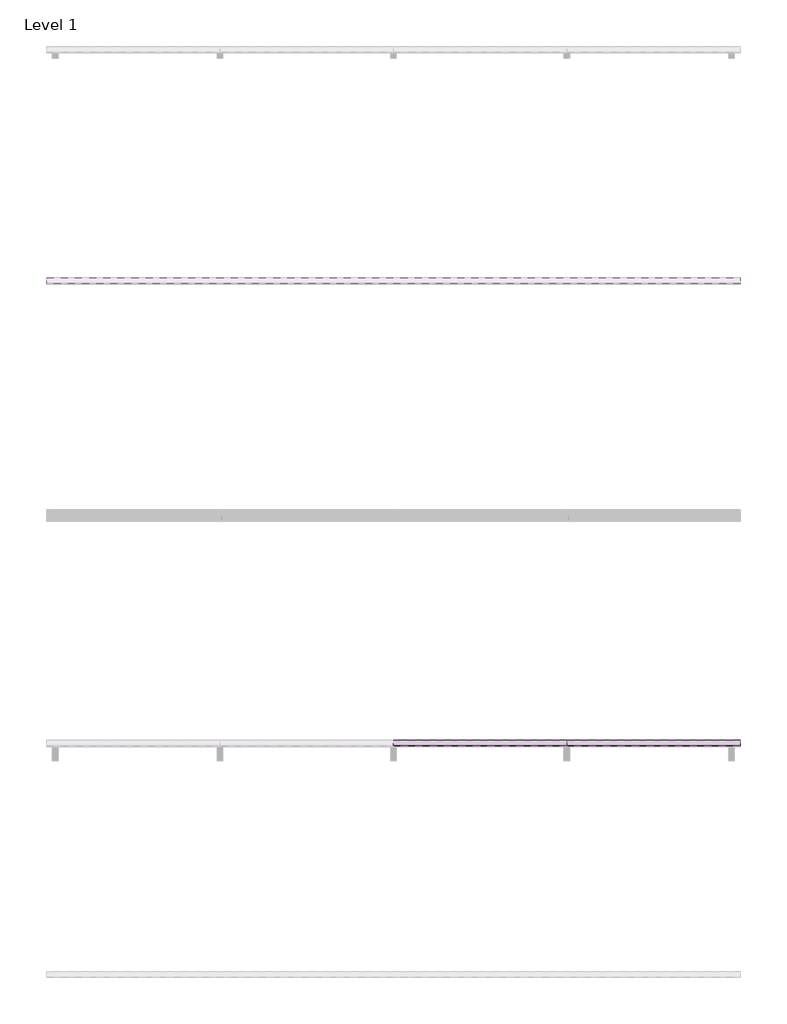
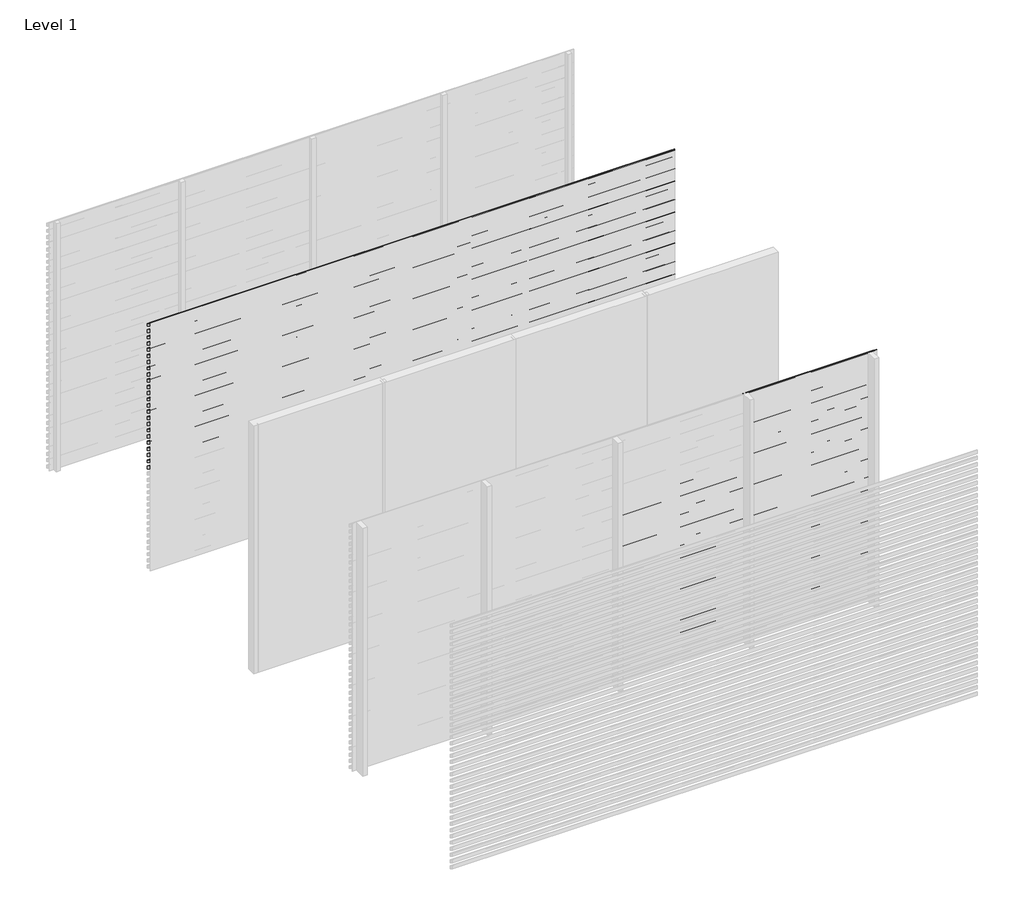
# One storey, part 3 of 9: 93 proxies.
"""IFC4 building model written with IfcOpenShell, lengths in millimetres."""

import ifcopenshell
import ifcopenshell.guid

model = None  # the IFC model being written
_history = None  # IfcOwnerHistory: only IFC2X3 demands one
_inside = {}  # id of a spatial element -> (the spatial element, [elements in it])
_under = {}  # id of a project, library or spatial element -> (it, [spatial elements below it])
_declared = {}  # id of a project -> (the project, [libraries it declares])
_typed = {}  # id of a type object -> (the type object, [elements of that type])
_made_of = {}  # id of a material, layer set ... -> (it, [elements and type objects made of it])


def new_model(schema):
    """Start an empty IFC model of exactly this schema.

    Asked for "IFC4X3", IfcOpenShell would pick the latest addendum, in which some entities
    have other attributes; the version numbers below select the first issue.
    IFC2X3 requires an IfcOwnerHistory on every rooted entity: one is made here for all.
    """
    global model, _history
    if schema == "IFC4X3":
        model = ifcopenshell.file(schema_version=(4, 3, 0, 0))
    else:
        model = ifcopenshell.file(schema=schema)
    _inside.clear()
    _under.clear()
    _declared.clear()
    _typed.clear()
    _made_of.clear()
    _history = None
    if model.schema == "IFC2X3":
        org = make("IfcOrganization", Name="unknown")
        user = make(
            "IfcPersonAndOrganization",
            ThePerson=make("IfcPerson", FamilyName="unknown"),
            TheOrganization=org,
        )
        app = make(
            "IfcApplication",
            ApplicationDeveloper=org,
            Version="unknown",
            ApplicationFullName="unknown",
            ApplicationIdentifier="unknown",
        )
        _history = make(
            "IfcOwnerHistory",
            OwningUser=user,
            OwningApplication=app,
            ChangeAction="ADDED",
            CreationDate=0,
        )
    return model


def make(cls, **values):
    """One entity of the class cls with the attributes given. An attribute that is None is left unset."""
    return model.create_entity(
        cls, **{name: value for name, value in values.items() if value is not None}
    )


def rooted(cls, **values):
    """An entity with a GlobalId (a new one), such as an element, a storey or a relation."""
    return make(cls, GlobalId=ifcopenshell.guid.new(), OwnerHistory=_history, **values)


def si_unit(unit_type, name, prefix=None):
    """IfcSIUnit, for example si_unit("LENGTHUNIT", "METRE", prefix="MILLI")."""
    return make("IfcSIUnit", UnitType=unit_type, Prefix=prefix, Name=name)


def assignment(units):
    """IfcUnitAssignment: the units of a project."""
    return None if units is None else make("IfcUnitAssignment", Units=units)


def point(xyz):
    """IfcCartesianPoint."""
    return None if xyz is None else make("IfcCartesianPoint", Coordinates=xyz)


def direction(xyz):
    """IfcDirection."""
    return None if xyz is None else make("IfcDirection", DirectionRatios=xyz)


def frame(location, z_axis=None, x_axis=None):
    """IfcAxis2Placement3D, a coordinate frame: its origin and axes. An axis left out is left unset."""
    return make(
        "IfcAxis2Placement3D",
        Location=point(location),
        Axis=direction(z_axis),
        RefDirection=direction(x_axis),
    )


def origin():
    """The frame at (0, 0, 0) with its axes left unset."""
    return frame((0.0, 0.0, 0.0))


def place(relative_to, where):
    """IfcLocalPlacement: puts the frame where relative to a parent placement (None: the world)."""
    return make(
        "IfcLocalPlacement", PlacementRelTo=relative_to, RelativePlacement=where
    )


def context(
    kind, dimensions, precision=None, world=None, true_north=None, identifier=None
):
    """IfcGeometricRepresentationContext, for example the 3D "Model" context."""
    return make(
        "IfcGeometricRepresentationContext",
        ContextIdentifier=identifier,
        ContextType=kind,
        CoordinateSpaceDimension=dimensions,
        Precision=precision,
        WorldCoordinateSystem=world,
        TrueNorth=true_north,
    )


def project(units=None, contexts=None):
    """IfcProject with its units and contexts."""
    return rooted(
        "IfcProject",
        Name="project",
        RepresentationContexts=contexts,
        UnitsInContext=assignment(units),
    )


def spatial(cls, under=None, at=None, **own):
    """A site, building, storey or space (cls), placed at a placement, below another one or the project."""
    s = rooted(cls, ObjectPlacement=at, **own)
    if under is not None:
        _under.setdefault(under.id(), (under, []))[1].append(s)
    return s


def polyline(points):
    """IfcPolyline through the points."""
    return make("IfcPolyline", Points=[point(p) for p in points])


def outline(outer, holes=None, kind="AREA"):
    """IfcArbitraryClosedProfileDef: a profile drawn as a closed curve; with holes, ...WithVoids."""
    if holes is None:
        return make("IfcArbitraryClosedProfileDef", ProfileType=kind, OuterCurve=outer)
    return make(
        "IfcArbitraryProfileDefWithVoids",
        ProfileType=kind,
        OuterCurve=outer,
        InnerCurves=holes,
    )


def extrude(swept, where, along, depth):
    """IfcExtrudedAreaSolid: the profile swept, set in the frame where, extruded along a direction by depth."""
    return make(
        "IfcExtrudedAreaSolid",
        SweptArea=swept,
        Position=where,
        ExtrudedDirection=direction(along),
        Depth=depth,
    )


def shape(context_of_items, identifier, shape_type, items):
    """IfcShapeRepresentation: the items that make up one representation, for example the "Body"."""
    return make(
        "IfcShapeRepresentation",
        ContextOfItems=context_of_items,
        RepresentationIdentifier=identifier,
        RepresentationType=shape_type,
        Items=items,
    )


def made_of(thing, what):
    """Note that an element or type object is made of a material, layer set ...; save() writes the relation."""
    if what is not None:
        _made_of.setdefault(what.id(), (what, []))[1].append(thing)
    return thing


def element(
    cls,
    number,
    at=None,
    inside=None,
    cuts=None,
    type_object=None,
    material=None,
    context=None,
    identifier="Body",
    shape_type=None,
    held_by="IfcProductDefinitionShape",
    body=None,
    shapes=None,
    **own,
):
    """One element of the class cls, such as IfcWall. Its Tag is "e" and its number.

    at: its placement. inside: the storey or other place that contains it. cuts: it is an
    opening in that element (IfcRelVoidsElement). A single representation is given by context,
    identifier, shape_type and body (its items); several are given by shapes. held_by: the class
    of the entity that holds the representations. save() writes the other relations.
    """
    e = rooted(cls, Tag="e%d" % number, ObjectPlacement=at, **own)
    if body is not None:
        shapes = [shape(context, identifier, shape_type, body)]
    if shapes is not None:
        e.Representation = make(held_by, Representations=shapes)
    if inside is not None:
        _inside.setdefault(inside.id(), (inside, []))[1].append(e)
    if cuts is not None:
        rooted(
            "IfcRelVoidsElement", RelatingBuildingElement=cuts, RelatedOpeningElement=e
        )
    if type_object is not None:
        _typed.setdefault(type_object.id(), (type_object, []))[1].append(e)
    return made_of(e, material)


def aggregate(whole, parts):
    """IfcRelAggregates: a whole, such as a stair, and the parts it consists of."""
    return rooted("IfcRelAggregates", RelatingObject=whole, RelatedObjects=parts)


def save(model, path):
    """Write the relations noted so far, then the file.

    IfcRelAggregates (storeys below a building ...), IfcRelContainedInSpatialStructure (elements
    in a storey), IfcRelDefinesByType, IfcRelAssociatesMaterial and IfcRelDeclares: one each for
    every whole, place, type object, material and project.
    """
    for whole, parts in _under.values():
        aggregate(whole, parts)
    for where, things in _inside.values():
        rooted(
            "IfcRelContainedInSpatialStructure",
            RelatedElements=things,
            RelatingStructure=where,
        )
    for kind, things in _typed.values():
        rooted("IfcRelDefinesByType", RelatedObjects=things, RelatingType=kind)
    for what, things in _made_of.values():
        rooted("IfcRelAssociatesMaterial", RelatedObjects=things, RelatingMaterial=what)
    for by, libraries in _declared.values():
        rooted("IfcRelDeclares", RelatingContext=by, RelatedDefinitions=libraries)
    model.write(path)


model = new_model("IFC4")

# Units and contexts
model_context = context("Model", 3, world=origin())
ifc_project = project(units=[si_unit("LENGTHUNIT", "METRE", prefix="MILLI")], contexts=[model_context])

# Site, building, storey
site = spatial("IfcSite", under=ifc_project)
building = spatial("IfcBuilding", under=site)
storey = spatial("IfcBuildingStorey", under=building, Name="Level 1", Elevation=0.0)

# Proxies
placement = place(None, origin())
element("IfcBuildingElementProxy", 1, Name="Wall Sweeps", at=placement, inside=storey, context=model_context, shape_type="SweptSolid", body=[
    extrude(outline(polyline([(-13995.0, 3000.0), (-13995.0, 2991.2901632), (-13946.0, 2963.0), (-13946.0, 2928.0), (-13997.0, 2957.4448637), (-13997.0, 3000.0), (-13995.0, 3000.0)])), frame((0.0, 0.0, 0.0), z_axis=(1.0, 0.0, 0.0), x_axis=(0.0, 1.0, 0.0)), (0.0, 0.0, 1.0), 6000.0),
])
element("IfcBuildingElementProxy", 2, Name="Wall Sweeps", at=placement, inside=storey, context=model_context, shape_type="SweptSolid", body=[
    extrude(outline(polyline([(-13995.0, 2925.0), (-13995.0, 2916.2901632), (-13946.0, 2888.0), (-13946.0, 2853.0), (-13997.0, 2882.4448637), (-13997.0, 2925.0), (-13995.0, 2925.0)])), frame((0.0, 0.0, 0.0), z_axis=(1.0, 0.0, 0.0), x_axis=(0.0, 1.0, 0.0)), (0.0, 0.0, 1.0), 6000.0),
])
element("IfcBuildingElementProxy", 3, Name="Wall Sweeps", at=placement, inside=storey, context=model_context, shape_type="SweptSolid", body=[
    extrude(outline(polyline([(-13995.0, 2850.0), (-13995.0, 2841.2901632), (-13946.0, 2813.0), (-13946.0, 2778.0), (-13997.0, 2807.4448637), (-13997.0, 2850.0), (-13995.0, 2850.0)])), frame((0.0, 0.0, 0.0), z_axis=(1.0, 0.0, 0.0), x_axis=(0.0, 1.0, 0.0)), (0.0, 0.0, 1.0), 6000.0),
])
element("IfcBuildingElementProxy", 4, Name="Wall Sweeps", at=placement, inside=storey, context=model_context, shape_type="SweptSolid", body=[
    extrude(outline(polyline([(-13995.0, 2775.0), (-13995.0, 2766.2901632), (-13946.0, 2738.0), (-13946.0, 2703.0), (-13997.0, 2732.4448637), (-13997.0, 2775.0), (-13995.0, 2775.0)])), frame((0.0, 0.0, 0.0), z_axis=(1.0, 0.0, 0.0), x_axis=(0.0, 1.0, 0.0)), (0.0, 0.0, 1.0), 6000.0),
])
element("IfcBuildingElementProxy", 5, Name="Wall Sweeps", at=placement, inside=storey, context=model_context, shape_type="SweptSolid", body=[
    extrude(outline(polyline([(-13995.0, 2700.0), (-13995.0, 2691.2901632), (-13946.0, 2663.0), (-13946.0, 2628.0), (-13997.0, 2657.4448637), (-13997.0, 2700.0), (-13995.0, 2700.0)])), frame((0.0, 0.0, 0.0), z_axis=(1.0, 0.0, 0.0), x_axis=(0.0, 1.0, 0.0)), (0.0, 0.0, 1.0), 6000.0),
])
element("IfcBuildingElementProxy", 6, Name="Wall Sweeps", at=placement, inside=storey, context=model_context, shape_type="SweptSolid", body=[
    extrude(outline(polyline([(-13995.0, 2625.0), (-13995.0, 2616.2901632), (-13946.0, 2588.0), (-13946.0, 2553.0), (-13997.0, 2582.4448637), (-13997.0, 2625.0), (-13995.0, 2625.0)])), frame((0.0, 0.0, 0.0), z_axis=(1.0, 0.0, 0.0), x_axis=(0.0, 1.0, 0.0)), (0.0, 0.0, 1.0), 6000.0),
])
element("IfcBuildingElementProxy", 7, Name="Wall Sweeps", at=placement, inside=storey, context=model_context, shape_type="SweptSolid", body=[
    extrude(outline(polyline([(-13995.0, 2550.0), (-13995.0, 2541.2901632), (-13946.0, 2513.0), (-13946.0, 2478.0), (-13997.0, 2507.4448637), (-13997.0, 2550.0), (-13995.0, 2550.0)])), frame((0.0, 0.0, 0.0), z_axis=(1.0, 0.0, 0.0), x_axis=(0.0, 1.0, 0.0)), (0.0, 0.0, 1.0), 6000.0),
])
element("IfcBuildingElementProxy", 8, Name="Wall Sweeps", at=placement, inside=storey, context=model_context, shape_type="SweptSolid", body=[
    extrude(outline(polyline([(-13995.0, 2475.0), (-13995.0, 2466.2901632), (-13946.0, 2438.0), (-13946.0, 2403.0), (-13997.0, 2432.4448637), (-13997.0, 2475.0), (-13995.0, 2475.0)])), frame((0.0, 0.0, 0.0), z_axis=(1.0, 0.0, 0.0), x_axis=(0.0, 1.0, 0.0)), (0.0, 0.0, 1.0), 6000.0),
])
element("IfcBuildingElementProxy", 9, Name="Wall Sweeps", at=placement, inside=storey, context=model_context, shape_type="SweptSolid", body=[
    extrude(outline(polyline([(-13995.0, 2400.0), (-13995.0, 2391.2901632), (-13946.0, 2363.0), (-13946.0, 2328.0), (-13997.0, 2357.4448637), (-13997.0, 2400.0), (-13995.0, 2400.0)])), frame((0.0, 0.0, 0.0), z_axis=(1.0, 0.0, 0.0), x_axis=(0.0, 1.0, 0.0)), (0.0, 0.0, 1.0), 6000.0),
])
element("IfcBuildingElementProxy", 10, Name="Wall Sweeps", at=placement, inside=storey, context=model_context, shape_type="SweptSolid", body=[
    extrude(outline(polyline([(-13995.0, 2325.0), (-13995.0, 2316.2901632), (-13946.0, 2288.0), (-13946.0, 2253.0), (-13997.0, 2282.4448637), (-13997.0, 2325.0), (-13995.0, 2325.0)])), frame((0.0, 0.0, 0.0), z_axis=(1.0, 0.0, 0.0), x_axis=(0.0, 1.0, 0.0)), (0.0, 0.0, 1.0), 6000.0),
])
element("IfcBuildingElementProxy", 11, Name="Wall Sweeps", at=placement, inside=storey, context=model_context, shape_type="SweptSolid", body=[
    extrude(outline(polyline([(-13995.0, 2250.0), (-13995.0, 2241.2901632), (-13946.0, 2213.0), (-13946.0, 2178.0), (-13997.0, 2207.4448637), (-13997.0, 2250.0), (-13995.0, 2250.0)])), frame((0.0, 0.0, 0.0), z_axis=(1.0, 0.0, 0.0), x_axis=(0.0, 1.0, 0.0)), (0.0, 0.0, 1.0), 6000.0),
])
element("IfcBuildingElementProxy", 12, Name="Wall Sweeps", at=placement, inside=storey, context=model_context, shape_type="SweptSolid", body=[
    extrude(outline(polyline([(-13995.0, 2175.0), (-13995.0, 2166.2901632), (-13946.0, 2138.0), (-13946.0, 2103.0), (-13997.0, 2132.4448637), (-13997.0, 2175.0), (-13995.0, 2175.0)])), frame((0.0, 0.0, 0.0), z_axis=(1.0, 0.0, 0.0), x_axis=(0.0, 1.0, 0.0)), (0.0, 0.0, 1.0), 6000.0),
])
element("IfcBuildingElementProxy", 13, Name="Wall Sweeps", at=placement, inside=storey, context=model_context, shape_type="SweptSolid", body=[
    extrude(outline(polyline([(-13995.0, 2100.0), (-13995.0, 2091.2901632), (-13946.0, 2063.0), (-13946.0, 2028.0), (-13997.0, 2057.4448637), (-13997.0, 2100.0), (-13995.0, 2100.0)])), frame((0.0, 0.0, 0.0), z_axis=(1.0, 0.0, 0.0), x_axis=(0.0, 1.0, 0.0)), (0.0, 0.0, 1.0), 6000.0),
])
element("IfcBuildingElementProxy", 14, Name="Wall Sweeps", at=placement, inside=storey, context=model_context, shape_type="SweptSolid", body=[
    extrude(outline(polyline([(-13995.0, 2025.0), (-13995.0, 2016.2901632), (-13946.0, 1988.0), (-13946.0, 1953.0), (-13997.0, 1982.4448637), (-13997.0, 2025.0), (-13995.0, 2025.0)])), frame((0.0, 0.0, 0.0), z_axis=(1.0, 0.0, 0.0), x_axis=(0.0, 1.0, 0.0)), (0.0, 0.0, 1.0), 6000.0),
])
element("IfcBuildingElementProxy", 15, Name="Wall Sweeps", at=placement, inside=storey, context=model_context, shape_type="SweptSolid", body=[
    extrude(outline(polyline([(-13995.0, 1950.0), (-13995.0, 1941.2901632), (-13946.0, 1913.0), (-13946.0, 1878.0), (-13997.0, 1907.4448637), (-13997.0, 1950.0), (-13995.0, 1950.0)])), frame((0.0, 0.0, 0.0), z_axis=(1.0, 0.0, 0.0), x_axis=(0.0, 1.0, 0.0)), (0.0, 0.0, 1.0), 6000.0),
])
element("IfcBuildingElementProxy", 16, Name="Wall Sweeps", at=placement, inside=storey, context=model_context, shape_type="SweptSolid", body=[
    extrude(outline(polyline([(-13995.0, 1875.0), (-13995.0, 1866.2901632), (-13946.0, 1838.0), (-13946.0, 1803.0), (-13997.0, 1832.4448637), (-13997.0, 1875.0), (-13995.0, 1875.0)])), frame((0.0, 0.0, 0.0), z_axis=(1.0, 0.0, 0.0), x_axis=(0.0, 1.0, 0.0)), (0.0, 0.0, 1.0), 6000.0),
])
element("IfcBuildingElementProxy", 17, Name="Wall Sweeps", at=placement, inside=storey, context=model_context, shape_type="SweptSolid", body=[
    extrude(outline(polyline([(-13995.0, 1800.0), (-13995.0, 1791.2901632), (-13946.0, 1763.0), (-13946.0, 1728.0), (-13997.0, 1757.4448637), (-13997.0, 1800.0), (-13995.0, 1800.0)])), frame((0.0, 0.0, 0.0), z_axis=(1.0, 0.0, 0.0), x_axis=(0.0, 1.0, 0.0)), (0.0, 0.0, 1.0), 6000.0),
])
element("IfcBuildingElementProxy", 18, Name="Wall Sweeps", at=placement, inside=storey, context=model_context, shape_type="SweptSolid", body=[
    extrude(outline(polyline([(-13995.0, 1725.0), (-13995.0, 1716.2901632), (-13946.0, 1688.0), (-13946.0, 1653.0), (-13997.0, 1682.4448637), (-13997.0, 1725.0), (-13995.0, 1725.0)])), frame((0.0, 0.0, 0.0), z_axis=(1.0, 0.0, 0.0), x_axis=(0.0, 1.0, 0.0)), (0.0, 0.0, 1.0), 6000.0),
])
element("IfcBuildingElementProxy", 19, Name="Wall Sweeps", at=placement, inside=storey, context=model_context, shape_type="SweptSolid", body=[
    extrude(outline(polyline([(-13995.0, 1650.0), (-13995.0, 1641.2901632), (-13946.0, 1613.0), (-13946.0, 1578.0), (-13997.0, 1607.4448637), (-13997.0, 1650.0), (-13995.0, 1650.0)])), frame((0.0, 0.0, 0.0), z_axis=(1.0, 0.0, 0.0), x_axis=(0.0, 1.0, 0.0)), (0.0, 0.0, 1.0), 6000.0),
])
element("IfcBuildingElementProxy", 20, Name="Wall Sweeps", at=placement, inside=storey, context=model_context, shape_type="SweptSolid", body=[
    extrude(outline(polyline([(-13995.0, 1575.0), (-13995.0, 1566.2901632), (-13946.0, 1538.0), (-13946.0, 1503.0), (-13997.0, 1532.4448637), (-13997.0, 1575.0), (-13995.0, 1575.0)])), frame((0.0, 0.0, 0.0), z_axis=(1.0, 0.0, 0.0), x_axis=(0.0, 1.0, 0.0)), (0.0, 0.0, 1.0), 6000.0),
])
element("IfcBuildingElementProxy", 21, Name="Wall Sweeps", at=placement, inside=storey, context=model_context, shape_type="SweptSolid", body=[
    extrude(outline(polyline([(-13995.0, 1500.0), (-13995.0, 1491.2901632), (-13946.0, 1463.0), (-13946.0, 1428.0), (-13997.0, 1457.4448637), (-13997.0, 1500.0), (-13995.0, 1500.0)])), frame((0.0, 0.0, 0.0), z_axis=(1.0, 0.0, 0.0), x_axis=(0.0, 1.0, 0.0)), (0.0, 0.0, 1.0), 6000.0),
])
element("IfcBuildingElementProxy", 22, Name="Wall Sweeps", at=placement, inside=storey, context=model_context, shape_type="SweptSolid", body=[
    extrude(outline(polyline([(-13995.0, 1425.0), (-13995.0, 1416.2901632), (-13946.0, 1388.0), (-13946.0, 1353.0), (-13997.0, 1382.4448637), (-13997.0, 1425.0), (-13995.0, 1425.0)])), frame((0.0, 0.0, 0.0), z_axis=(1.0, 0.0, 0.0), x_axis=(0.0, 1.0, 0.0)), (0.0, 0.0, 1.0), 6000.0),
])
element("IfcBuildingElementProxy", 23, Name="Wall Sweeps", at=placement, inside=storey, context=model_context, shape_type="SweptSolid", body=[
    extrude(outline(polyline([(-13995.0, 1350.0), (-13995.0, 1341.2901632), (-13946.0, 1313.0), (-13946.0, 1278.0), (-13997.0, 1307.4448637), (-13997.0, 1350.0), (-13995.0, 1350.0)])), frame((0.0, 0.0, 0.0), z_axis=(1.0, 0.0, 0.0), x_axis=(0.0, 1.0, 0.0)), (0.0, 0.0, 1.0), 6000.0),
])
element("IfcBuildingElementProxy", 24, Name="Wall Sweeps", at=placement, inside=storey, context=model_context, shape_type="SweptSolid", body=[
    extrude(outline(polyline([(-13995.0, 1275.0), (-13995.0, 1266.2901632), (-13946.0, 1238.0), (-13946.0, 1203.0), (-13997.0, 1232.4448637), (-13997.0, 1275.0), (-13995.0, 1275.0)])), frame((0.0, 0.0, 0.0), z_axis=(1.0, 0.0, 0.0), x_axis=(0.0, 1.0, 0.0)), (0.0, 0.0, 1.0), 6000.0),
])
element("IfcBuildingElementProxy", 25, Name="Wall Sweeps", at=placement, inside=storey, context=model_context, shape_type="SweptSolid", body=[
    extrude(outline(polyline([(-17995.0, 3000.0), (-17995.0, 2991.2901632), (-17946.0, 2963.0), (-17946.0, 2928.0), (-17997.0, 2957.4448637), (-17997.0, 3000.0), (-17995.0, 3000.0)])), frame((4499.9999998, 0.0, 0.0), z_axis=(1.0, 0.0, 0.0), x_axis=(0.0, 1.0, 0.0)), (0.0, 0.0, 1.0), 1500.0000002),
])
element("IfcBuildingElementProxy", 26, Name="Wall Sweeps", at=placement, inside=storey, context=model_context, shape_type="SweptSolid", body=[
    extrude(outline(polyline([(-17995.0, 2925.0), (-17995.0, 2916.2901632), (-17946.0, 2888.0), (-17946.0, 2853.0), (-17997.0, 2882.4448637), (-17997.0, 2925.0), (-17995.0, 2925.0)])), frame((4499.9999998, 0.0, 0.0), z_axis=(1.0, 0.0, 0.0), x_axis=(0.0, 1.0, 0.0)), (0.0, 0.0, 1.0), 1500.0000002),
])
element("IfcBuildingElementProxy", 27, Name="Wall Sweeps", at=placement, inside=storey, context=model_context, shape_type="SweptSolid", body=[
    extrude(outline(polyline([(-17995.0, 2850.0), (-17995.0, 2841.2901632), (-17946.0, 2813.0), (-17946.0, 2778.0), (-17997.0, 2807.4448637), (-17997.0, 2850.0), (-17995.0, 2850.0)])), frame((4499.9999998, 0.0, 0.0), z_axis=(1.0, 0.0, 0.0), x_axis=(0.0, 1.0, 0.0)), (0.0, 0.0, 1.0), 1500.0000002),
])
element("IfcBuildingElementProxy", 28, Name="Wall Sweeps", at=placement, inside=storey, context=model_context, shape_type="SweptSolid", body=[
    extrude(outline(polyline([(-17995.0, 2775.0), (-17995.0, 2766.2901632), (-17946.0, 2738.0), (-17946.0, 2703.0), (-17997.0, 2732.4448637), (-17997.0, 2775.0), (-17995.0, 2775.0)])), frame((4499.9999998, 0.0, 0.0), z_axis=(1.0, 0.0, 0.0), x_axis=(0.0, 1.0, 0.0)), (0.0, 0.0, 1.0), 1500.0000002),
])
element("IfcBuildingElementProxy", 29, Name="Wall Sweeps", at=placement, inside=storey, context=model_context, shape_type="SweptSolid", body=[
    extrude(outline(polyline([(-17995.0, 2700.0), (-17995.0, 2691.2901632), (-17946.0, 2663.0), (-17946.0, 2628.0), (-17997.0, 2657.4448637), (-17997.0, 2700.0), (-17995.0, 2700.0)])), frame((4499.9999998, 0.0, 0.0), z_axis=(1.0, 0.0, 0.0), x_axis=(0.0, 1.0, 0.0)), (0.0, 0.0, 1.0), 1500.0000002),
])
element("IfcBuildingElementProxy", 30, Name="Wall Sweeps", at=placement, inside=storey, context=model_context, shape_type="SweptSolid", body=[
    extrude(outline(polyline([(-17995.0, 2625.0), (-17995.0, 2616.2901632), (-17946.0, 2588.0), (-17946.0, 2553.0), (-17997.0, 2582.4448637), (-17997.0, 2625.0), (-17995.0, 2625.0)])), frame((4499.9999998, 0.0, 0.0), z_axis=(1.0, 0.0, 0.0), x_axis=(0.0, 1.0, 0.0)), (0.0, 0.0, 1.0), 1500.0000002),
])
element("IfcBuildingElementProxy", 31, Name="Wall Sweeps", at=placement, inside=storey, context=model_context, shape_type="SweptSolid", body=[
    extrude(outline(polyline([(-17995.0, 2550.0), (-17995.0, 2541.2901632), (-17946.0, 2513.0), (-17946.0, 2478.0), (-17997.0, 2507.4448637), (-17997.0, 2550.0), (-17995.0, 2550.0)])), frame((4499.9999998, 0.0, 0.0), z_axis=(1.0, 0.0, 0.0), x_axis=(0.0, 1.0, 0.0)), (0.0, 0.0, 1.0), 1500.0000002),
])
element("IfcBuildingElementProxy", 32, Name="Wall Sweeps", at=placement, inside=storey, context=model_context, shape_type="SweptSolid", body=[
    extrude(outline(polyline([(-17995.0, 2475.0), (-17995.0, 2466.2901632), (-17946.0, 2438.0), (-17946.0, 2403.0), (-17997.0, 2432.4448637), (-17997.0, 2475.0), (-17995.0, 2475.0)])), frame((4499.9999998, 0.0, 0.0), z_axis=(1.0, 0.0, 0.0), x_axis=(0.0, 1.0, 0.0)), (0.0, 0.0, 1.0), 1500.0000002),
])
element("IfcBuildingElementProxy", 33, Name="Wall Sweeps", at=placement, inside=storey, context=model_context, shape_type="SweptSolid", body=[
    extrude(outline(polyline([(-17995.0, 2400.0), (-17995.0, 2391.2901632), (-17946.0, 2363.0), (-17946.0, 2328.0), (-17997.0, 2357.4448637), (-17997.0, 2400.0), (-17995.0, 2400.0)])), frame((4499.9999998, 0.0, 0.0), z_axis=(1.0, 0.0, 0.0), x_axis=(0.0, 1.0, 0.0)), (0.0, 0.0, 1.0), 1500.0000002),
])
element("IfcBuildingElementProxy", 34, Name="Wall Sweeps", at=placement, inside=storey, context=model_context, shape_type="SweptSolid", body=[
    extrude(outline(polyline([(-17995.0, 2325.0), (-17995.0, 2316.2901632), (-17946.0, 2288.0), (-17946.0, 2253.0), (-17997.0, 2282.4448637), (-17997.0, 2325.0), (-17995.0, 2325.0)])), frame((4499.9999998, 0.0, 0.0), z_axis=(1.0, 0.0, 0.0), x_axis=(0.0, 1.0, 0.0)), (0.0, 0.0, 1.0), 1500.0000002),
])
element("IfcBuildingElementProxy", 35, Name="Wall Sweeps", at=placement, inside=storey, context=model_context, shape_type="SweptSolid", body=[
    extrude(outline(polyline([(-17995.0, 2250.0), (-17995.0, 2241.2901632), (-17946.0, 2213.0), (-17946.0, 2178.0), (-17997.0, 2207.4448637), (-17997.0, 2250.0), (-17995.0, 2250.0)])), frame((4499.9999998, 0.0, 0.0), z_axis=(1.0, 0.0, 0.0), x_axis=(0.0, 1.0, 0.0)), (0.0, 0.0, 1.0), 1500.0000002),
])
element("IfcBuildingElementProxy", 36, Name="Wall Sweeps", at=placement, inside=storey, context=model_context, shape_type="SweptSolid", body=[
    extrude(outline(polyline([(-17995.0, 2175.0), (-17995.0, 2166.2901632), (-17946.0, 2138.0), (-17946.0, 2103.0), (-17997.0, 2132.4448637), (-17997.0, 2175.0), (-17995.0, 2175.0)])), frame((4499.9999998, 0.0, 0.0), z_axis=(1.0, 0.0, 0.0), x_axis=(0.0, 1.0, 0.0)), (0.0, 0.0, 1.0), 1500.0000002),
])
element("IfcBuildingElementProxy", 37, Name="Wall Sweeps", at=placement, inside=storey, context=model_context, shape_type="SweptSolid", body=[
    extrude(outline(polyline([(-17995.0, 2100.0), (-17995.0, 2091.2901632), (-17946.0, 2063.0), (-17946.0, 2028.0), (-17997.0, 2057.4448637), (-17997.0, 2100.0), (-17995.0, 2100.0)])), frame((4499.9999998, 0.0, 0.0), z_axis=(1.0, 0.0, 0.0), x_axis=(0.0, 1.0, 0.0)), (0.0, 0.0, 1.0), 1500.0000002),
])
element("IfcBuildingElementProxy", 38, Name="Wall Sweeps", at=placement, inside=storey, context=model_context, shape_type="SweptSolid", body=[
    extrude(outline(polyline([(-17995.0, 2025.0), (-17995.0, 2016.2901632), (-17946.0, 1988.0), (-17946.0, 1953.0), (-17997.0, 1982.4448637), (-17997.0, 2025.0), (-17995.0, 2025.0)])), frame((4499.9999998, 0.0, 0.0), z_axis=(1.0, 0.0, 0.0), x_axis=(0.0, 1.0, 0.0)), (0.0, 0.0, 1.0), 1500.0000002),
])
element("IfcBuildingElementProxy", 39, Name="Wall Sweeps", at=placement, inside=storey, context=model_context, shape_type="SweptSolid", body=[
    extrude(outline(polyline([(-17995.0, 1950.0), (-17995.0, 1941.2901632), (-17946.0, 1913.0), (-17946.0, 1878.0), (-17997.0, 1907.4448637), (-17997.0, 1950.0), (-17995.0, 1950.0)])), frame((4499.9999998, 0.0, 0.0), z_axis=(1.0, 0.0, 0.0), x_axis=(0.0, 1.0, 0.0)), (0.0, 0.0, 1.0), 1500.0000002),
])
element("IfcBuildingElementProxy", 40, Name="Wall Sweeps", at=placement, inside=storey, context=model_context, shape_type="SweptSolid", body=[
    extrude(outline(polyline([(-17995.0, 1875.0), (-17995.0, 1866.2901632), (-17946.0, 1838.0), (-17946.0, 1803.0), (-17997.0, 1832.4448637), (-17997.0, 1875.0), (-17995.0, 1875.0)])), frame((4499.9999998, 0.0, 0.0), z_axis=(1.0, 0.0, 0.0), x_axis=(0.0, 1.0, 0.0)), (0.0, 0.0, 1.0), 1500.0000002),
])
element("IfcBuildingElementProxy", 41, Name="Wall Sweeps", at=placement, inside=storey, context=model_context, shape_type="SweptSolid", body=[
    extrude(outline(polyline([(-17995.0, 1800.0), (-17995.0, 1791.2901632), (-17946.0, 1763.0), (-17946.0, 1728.0), (-17997.0, 1757.4448637), (-17997.0, 1800.0), (-17995.0, 1800.0)])), frame((4499.9999998, 0.0, 0.0), z_axis=(1.0, 0.0, 0.0), x_axis=(0.0, 1.0, 0.0)), (0.0, 0.0, 1.0), 1500.0000002),
])
element("IfcBuildingElementProxy", 42, Name="Wall Sweeps", at=placement, inside=storey, context=model_context, shape_type="SweptSolid", body=[
    extrude(outline(polyline([(-17995.0, 1725.0), (-17995.0, 1716.2901632), (-17946.0, 1688.0), (-17946.0, 1653.0), (-17997.0, 1682.4448637), (-17997.0, 1725.0), (-17995.0, 1725.0)])), frame((4499.9999998, 0.0, 0.0), z_axis=(1.0, 0.0, 0.0), x_axis=(0.0, 1.0, 0.0)), (0.0, 0.0, 1.0), 1500.0000002),
])
element("IfcBuildingElementProxy", 43, Name="Wall Sweeps", at=placement, inside=storey, context=model_context, shape_type="SweptSolid", body=[
    extrude(outline(polyline([(-17995.0, 1650.0), (-17995.0, 1641.2901632), (-17946.0, 1613.0), (-17946.0, 1578.0), (-17997.0, 1607.4448637), (-17997.0, 1650.0), (-17995.0, 1650.0)])), frame((4499.9999998, 0.0, 0.0), z_axis=(1.0, 0.0, 0.0), x_axis=(0.0, 1.0, 0.0)), (0.0, 0.0, 1.0), 1500.0000002),
])
element("IfcBuildingElementProxy", 44, Name="Wall Sweeps", at=placement, inside=storey, context=model_context, shape_type="SweptSolid", body=[
    extrude(outline(polyline([(-17995.0, 1575.0), (-17995.0, 1566.2901632), (-17946.0, 1538.0), (-17946.0, 1503.0), (-17997.0, 1532.4448637), (-17997.0, 1575.0), (-17995.0, 1575.0)])), frame((4499.9999998, 0.0, 0.0), z_axis=(1.0, 0.0, 0.0), x_axis=(0.0, 1.0, 0.0)), (0.0, 0.0, 1.0), 1500.0000002),
])
element("IfcBuildingElementProxy", 45, Name="Wall Sweeps", at=placement, inside=storey, context=model_context, shape_type="SweptSolid", body=[
    extrude(outline(polyline([(-17995.0, 1500.0), (-17995.0, 1491.2901632), (-17946.0, 1463.0), (-17946.0, 1428.0), (-17997.0, 1457.4448637), (-17997.0, 1500.0), (-17995.0, 1500.0)])), frame((4499.9999998, 0.0, 0.0), z_axis=(1.0, 0.0, 0.0), x_axis=(0.0, 1.0, 0.0)), (0.0, 0.0, 1.0), 1500.0000002),
])
element("IfcBuildingElementProxy", 46, Name="Wall Sweeps", at=placement, inside=storey, context=model_context, shape_type="SweptSolid", body=[
    extrude(outline(polyline([(-17995.0, 1425.0), (-17995.0, 1416.2901632), (-17946.0, 1388.0), (-17946.0, 1353.0), (-17997.0, 1382.4448637), (-17997.0, 1425.0), (-17995.0, 1425.0)])), frame((4499.9999998, 0.0, 0.0), z_axis=(1.0, 0.0, 0.0), x_axis=(0.0, 1.0, 0.0)), (0.0, 0.0, 1.0), 1500.0000002),
])
element("IfcBuildingElementProxy", 47, Name="Wall Sweeps", at=placement, inside=storey, context=model_context, shape_type="SweptSolid", body=[
    extrude(outline(polyline([(-17995.0, 1350.0), (-17995.0, 1341.2901632), (-17946.0, 1313.0), (-17946.0, 1278.0), (-17997.0, 1307.4448637), (-17997.0, 1350.0), (-17995.0, 1350.0)])), frame((4499.9999998, 0.0, 0.0), z_axis=(1.0, 0.0, 0.0), x_axis=(0.0, 1.0, 0.0)), (0.0, 0.0, 1.0), 1500.0000002),
])
element("IfcBuildingElementProxy", 48, Name="Wall Sweeps", at=placement, inside=storey, context=model_context, shape_type="SweptSolid", body=[
    extrude(outline(polyline([(-17995.0, 1275.0), (-17995.0, 1266.2901632), (-17946.0, 1238.0), (-17946.0, 1203.0), (-17997.0, 1232.4448637), (-17997.0, 1275.0), (-17995.0, 1275.0)])), frame((4499.9999998, 0.0, 0.0), z_axis=(1.0, 0.0, 0.0), x_axis=(0.0, 1.0, 0.0)), (0.0, 0.0, 1.0), 1500.0000002),
])
element("IfcBuildingElementProxy", 49, Name="Wall Sweeps", at=placement, inside=storey, context=model_context, shape_type="SweptSolid", body=[
    extrude(outline(polyline([(-17995.0, 1200.0), (-17995.0, 1191.2901632), (-17946.0, 1163.0), (-17946.0, 1128.0), (-17997.0, 1157.4448637), (-17997.0, 1200.0), (-17995.0, 1200.0)])), frame((4499.9999998, 0.0, 0.0), z_axis=(1.0, 0.0, 0.0), x_axis=(0.0, 1.0, 0.0)), (0.0, 0.0, 1.0), 1500.0000002),
])
element("IfcBuildingElementProxy", 50, Name="Wall Sweeps", at=placement, inside=storey, context=model_context, shape_type="SweptSolid", body=[
    extrude(outline(polyline([(-17995.0, 1125.0), (-17995.0, 1116.2901632), (-17946.0, 1088.0), (-17946.0, 1053.0), (-17997.0, 1082.4448637), (-17997.0, 1125.0), (-17995.0, 1125.0)])), frame((4499.9999998, 0.0, 0.0), z_axis=(1.0, 0.0, 0.0), x_axis=(0.0, 1.0, 0.0)), (0.0, 0.0, 1.0), 1500.0000002),
])
element("IfcBuildingElementProxy", 51, Name="Wall Sweeps", at=placement, inside=storey, context=model_context, shape_type="SweptSolid", body=[
    extrude(outline(polyline([(-17995.0, 1050.0), (-17995.0, 1041.2901632), (-17946.0, 1013.0), (-17946.0, 978.0), (-17997.0, 1007.4448637), (-17997.0, 1050.0), (-17995.0, 1050.0)])), frame((4499.9999998, 0.0, 0.0), z_axis=(1.0, 0.0, 0.0), x_axis=(0.0, 1.0, 0.0)), (0.0, 0.0, 1.0), 1500.0000002),
])
element("IfcBuildingElementProxy", 52, Name="Wall Sweeps", at=placement, inside=storey, context=model_context, shape_type="SweptSolid", body=[
    extrude(outline(polyline([(-17995.0, 975.0), (-17995.0, 966.2901632), (-17946.0, 938.0), (-17946.0, 903.0), (-17997.0, 932.4448637), (-17997.0, 975.0), (-17995.0, 975.0)])), frame((4499.9999998, 0.0, 0.0), z_axis=(1.0, 0.0, 0.0), x_axis=(0.0, 1.0, 0.0)), (0.0, 0.0, 1.0), 1500.0000002),
])
element("IfcBuildingElementProxy", 53, Name="Wall Sweeps", at=placement, inside=storey, context=model_context, shape_type="SweptSolid", body=[
    extrude(outline(polyline([(-17995.0, 900.0), (-17995.0, 891.2901632), (-17946.0, 863.0), (-17946.0, 828.0), (-17997.0, 857.4448637), (-17997.0, 900.0), (-17995.0, 900.0)])), frame((4499.9999998, 0.0, 0.0), z_axis=(1.0, 0.0, 0.0), x_axis=(0.0, 1.0, 0.0)), (0.0, 0.0, 1.0), 1500.0000002),
])
element("IfcBuildingElementProxy", 54, Name="Wall Sweeps", at=placement, inside=storey, context=model_context, shape_type="SweptSolid", body=[
    extrude(outline(polyline([(-17995.0, 825.0), (-17995.0, 816.2901632), (-17946.0, 788.0), (-17946.0, 753.0), (-17997.0, 782.4448637), (-17997.0, 825.0), (-17995.0, 825.0)])), frame((4499.9999998, 0.0, 0.0), z_axis=(1.0, 0.0, 0.0), x_axis=(0.0, 1.0, 0.0)), (0.0, 0.0, 1.0), 1500.0000002),
])
element("IfcBuildingElementProxy", 55, Name="Wall Sweeps", at=placement, inside=storey, context=model_context, shape_type="SweptSolid", body=[
    extrude(outline(polyline([(-17995.0, 750.0), (-17995.0, 741.2901632), (-17946.0, 713.0), (-17946.0, 678.0), (-17997.0, 707.4448637), (-17997.0, 750.0), (-17995.0, 750.0)])), frame((4499.9999998, 0.0, 0.0), z_axis=(1.0, 0.0, 0.0), x_axis=(0.0, 1.0, 0.0)), (0.0, 0.0, 1.0), 1500.0000002),
])
element("IfcBuildingElementProxy", 56, Name="Wall Sweeps", at=placement, inside=storey, context=model_context, shape_type="SweptSolid", body=[
    extrude(outline(polyline([(-17995.0, 675.0), (-17995.0, 666.2901632), (-17946.0, 638.0), (-17946.0, 603.0), (-17997.0, 632.4448637), (-17997.0, 675.0), (-17995.0, 675.0)])), frame((4499.9999998, 0.0, 0.0), z_axis=(1.0, 0.0, 0.0), x_axis=(0.0, 1.0, 0.0)), (0.0, 0.0, 1.0), 1500.0000002),
])
element("IfcBuildingElementProxy", 57, Name="Wall Sweeps", at=placement, inside=storey, context=model_context, shape_type="SweptSolid", body=[
    extrude(outline(polyline([(-17995.0, 600.0), (-17995.0, 591.2901632), (-17946.0, 563.0), (-17946.0, 528.0), (-17997.0, 557.4448637), (-17997.0, 600.0), (-17995.0, 600.0)])), frame((4499.9999998, 0.0, 0.0), z_axis=(1.0, 0.0, 0.0), x_axis=(0.0, 1.0, 0.0)), (0.0, 0.0, 1.0), 1500.0000002),
])
element("IfcBuildingElementProxy", 58, Name="Wall Sweeps", at=placement, inside=storey, context=model_context, shape_type="SweptSolid", body=[
    extrude(outline(polyline([(-17995.0, 525.0), (-17995.0, 516.2901632), (-17946.0, 488.0), (-17946.0, 453.0), (-17997.0, 482.4448637), (-17997.0, 525.0), (-17995.0, 525.0)])), frame((4499.9999998, 0.0, 0.0), z_axis=(1.0, 0.0, 0.0), x_axis=(0.0, 1.0, 0.0)), (0.0, 0.0, 1.0), 1500.0000002),
])
element("IfcBuildingElementProxy", 59, Name="Wall Sweeps", at=placement, inside=storey, context=model_context, shape_type="SweptSolid", body=[
    extrude(outline(polyline([(-17995.0, 450.0), (-17995.0, 441.2901632), (-17946.0, 413.0), (-17946.0, 378.0), (-17997.0, 407.4448637), (-17997.0, 450.0), (-17995.0, 450.0)])), frame((4499.9999998, 0.0, 0.0), z_axis=(1.0, 0.0, 0.0), x_axis=(0.0, 1.0, 0.0)), (0.0, 0.0, 1.0), 1500.0000002),
])
element("IfcBuildingElementProxy", 60, Name="Wall Sweeps", at=placement, inside=storey, context=model_context, shape_type="SweptSolid", body=[
    extrude(outline(polyline([(-17995.0, 375.0), (-17995.0, 366.2901632), (-17946.0, 338.0), (-17946.0, 303.0), (-17997.0, 332.4448637), (-17997.0, 375.0), (-17995.0, 375.0)])), frame((4499.9999998, 0.0, 0.0), z_axis=(1.0, 0.0, 0.0), x_axis=(0.0, 1.0, 0.0)), (0.0, 0.0, 1.0), 1500.0000002),
])
element("IfcBuildingElementProxy", 61, Name="Wall Sweeps", at=placement, inside=storey, context=model_context, shape_type="SweptSolid", body=[
    extrude(outline(polyline([(-17995.0, 300.0), (-17995.0, 291.2901632), (-17946.0, 263.0), (-17946.0, 228.0), (-17997.0, 257.4448637), (-17997.0, 300.0), (-17995.0, 300.0)])), frame((4499.9999998, 0.0, 0.0), z_axis=(1.0, 0.0, 0.0), x_axis=(0.0, 1.0, 0.0)), (0.0, 0.0, 1.0), 1500.0000002),
])
element("IfcBuildingElementProxy", 62, Name="Wall Sweeps", at=placement, inside=storey, context=model_context, shape_type="SweptSolid", body=[
    extrude(outline(polyline([(-17995.0, 225.0), (-17995.0, 216.2901632), (-17946.0, 188.0), (-17946.0, 153.0), (-17997.0, 182.4448637), (-17997.0, 225.0), (-17995.0, 225.0)])), frame((4499.9999998, 0.0, 0.0), z_axis=(1.0, 0.0, 0.0), x_axis=(0.0, 1.0, 0.0)), (0.0, 0.0, 1.0), 1500.0000002),
])
element("IfcBuildingElementProxy", 63, Name="Wall Sweeps", at=placement, inside=storey, context=model_context, shape_type="SweptSolid", body=[
    extrude(outline(polyline([(-17995.0, 150.0), (-17995.0, 141.2901632), (-17946.0, 113.0), (-17946.0, 78.0), (-17997.0, 107.4448637), (-17997.0, 150.0), (-17995.0, 150.0)])), frame((4499.9999998, 0.0, 0.0), z_axis=(1.0, 0.0, 0.0), x_axis=(0.0, 1.0, 0.0)), (0.0, 0.0, 1.0), 1500.0000002),
])
element("IfcBuildingElementProxy", 64, Name="Wall Sweeps", at=placement, inside=storey, context=model_context, shape_type="SweptSolid", body=[
    extrude(outline(polyline([(-17995.0, 75.0), (-17995.0, 66.2901632), (-17946.0, 38.0), (-17946.0, 3.0), (-17997.0, 32.4448637), (-17997.0, 75.0), (-17995.0, 75.0)])), frame((4499.9999998, 0.0, 0.0), z_axis=(1.0, 0.0, 0.0), x_axis=(0.0, 1.0, 0.0)), (0.0, 0.0, 1.0), 1500.0000002),
])
element("IfcBuildingElementProxy", 65, Name="Wall Sweeps", at=placement, inside=storey, context=model_context, shape_type="SweptSolid", body=[
    extrude(outline(polyline([(-17995.0, 2175.0), (-17995.0, 2166.2901632), (-17946.0, 2138.0), (-17946.0, 2103.0), (-17997.0, 2132.4448637), (-17997.0, 2175.0), (-17995.0, 2175.0)])), frame((3000.0, 0.0, 0.0), z_axis=(1.0, 0.0, 0.0), x_axis=(0.0, 1.0, 0.0)), (0.0, 0.0, 1.0), 1499.9999998),
])
element("IfcBuildingElementProxy", 66, Name="Wall Sweeps", at=placement, inside=storey, context=model_context, shape_type="SweptSolid", body=[
    extrude(outline(polyline([(-17995.0, 2100.0), (-17995.0, 2091.2901632), (-17946.0, 2063.0), (-17946.0, 2028.0), (-17997.0, 2057.4448637), (-17997.0, 2100.0), (-17995.0, 2100.0)])), frame((3000.0, 0.0, 0.0), z_axis=(1.0, 0.0, 0.0), x_axis=(0.0, 1.0, 0.0)), (0.0, 0.0, 1.0), 1499.9999998),
])
element("IfcBuildingElementProxy", 67, Name="Wall Sweeps", at=placement, inside=storey, context=model_context, shape_type="SweptSolid", body=[
    extrude(outline(polyline([(-17995.0, 2025.0), (-17995.0, 2016.2901632), (-17946.0, 1988.0), (-17946.0, 1953.0), (-17997.0, 1982.4448637), (-17997.0, 2025.0), (-17995.0, 2025.0)])), frame((3000.0, 0.0, 0.0), z_axis=(1.0, 0.0, 0.0), x_axis=(0.0, 1.0, 0.0)), (0.0, 0.0, 1.0), 1499.9999998),
])
element("IfcBuildingElementProxy", 68, Name="Wall Sweeps", at=placement, inside=storey, context=model_context, shape_type="SweptSolid", body=[
    extrude(outline(polyline([(-17995.0, 1950.0), (-17995.0, 1941.2901632), (-17946.0, 1913.0), (-17946.0, 1878.0), (-17997.0, 1907.4448637), (-17997.0, 1950.0), (-17995.0, 1950.0)])), frame((3000.0, 0.0, 0.0), z_axis=(1.0, 0.0, 0.0), x_axis=(0.0, 1.0, 0.0)), (0.0, 0.0, 1.0), 1499.9999998),
])
element("IfcBuildingElementProxy", 69, Name="Wall Sweeps", at=placement, inside=storey, context=model_context, shape_type="SweptSolid", body=[
    extrude(outline(polyline([(-17995.0, 1875.0), (-17995.0, 1866.2901632), (-17946.0, 1838.0), (-17946.0, 1803.0), (-17997.0, 1832.4448637), (-17997.0, 1875.0), (-17995.0, 1875.0)])), frame((3000.0, 0.0, 0.0), z_axis=(1.0, 0.0, 0.0), x_axis=(0.0, 1.0, 0.0)), (0.0, 0.0, 1.0), 1499.9999998),
])
element("IfcBuildingElementProxy", 70, Name="Wall Sweeps", at=placement, inside=storey, context=model_context, shape_type="SweptSolid", body=[
    extrude(outline(polyline([(-17995.0, 1800.0), (-17995.0, 1791.2901632), (-17946.0, 1763.0), (-17946.0, 1728.0), (-17997.0, 1757.4448637), (-17997.0, 1800.0), (-17995.0, 1800.0)])), frame((3000.0, 0.0, 0.0), z_axis=(1.0, 0.0, 0.0), x_axis=(0.0, 1.0, 0.0)), (0.0, 0.0, 1.0), 1499.9999998),
])
element("IfcBuildingElementProxy", 71, Name="Wall Sweeps", at=placement, inside=storey, context=model_context, shape_type="SweptSolid", body=[
    extrude(outline(polyline([(-17995.0, 1725.0), (-17995.0, 1716.2901632), (-17946.0, 1688.0), (-17946.0, 1653.0), (-17997.0, 1682.4448637), (-17997.0, 1725.0), (-17995.0, 1725.0)])), frame((3000.0, 0.0, 0.0), z_axis=(1.0, 0.0, 0.0), x_axis=(0.0, 1.0, 0.0)), (0.0, 0.0, 1.0), 1499.9999998),
])
element("IfcBuildingElementProxy", 72, Name="Wall Sweeps", at=placement, inside=storey, context=model_context, shape_type="SweptSolid", body=[
    extrude(outline(polyline([(-17995.0, 1650.0), (-17995.0, 1641.2901632), (-17946.0, 1613.0), (-17946.0, 1578.0), (-17997.0, 1607.4448637), (-17997.0, 1650.0), (-17995.0, 1650.0)])), frame((3000.0, 0.0, 0.0), z_axis=(1.0, 0.0, 0.0), x_axis=(0.0, 1.0, 0.0)), (0.0, 0.0, 1.0), 1499.9999998),
])
element("IfcBuildingElementProxy", 73, Name="Wall Sweeps", at=placement, inside=storey, context=model_context, shape_type="SweptSolid", body=[
    extrude(outline(polyline([(-17995.0, 1575.0), (-17995.0, 1566.2901632), (-17946.0, 1538.0), (-17946.0, 1503.0), (-17997.0, 1532.4448637), (-17997.0, 1575.0), (-17995.0, 1575.0)])), frame((3000.0, 0.0, 0.0), z_axis=(1.0, 0.0, 0.0), x_axis=(0.0, 1.0, 0.0)), (0.0, 0.0, 1.0), 1499.9999998),
])
element("IfcBuildingElementProxy", 74, Name="Wall Sweeps", at=placement, inside=storey, context=model_context, shape_type="SweptSolid", body=[
    extrude(outline(polyline([(-17995.0, 1500.0), (-17995.0, 1491.2901632), (-17946.0, 1463.0), (-17946.0, 1428.0), (-17997.0, 1457.4448637), (-17997.0, 1500.0), (-17995.0, 1500.0)])), frame((3000.0, 0.0, 0.0), z_axis=(1.0, 0.0, 0.0), x_axis=(0.0, 1.0, 0.0)), (0.0, 0.0, 1.0), 1499.9999998),
])
element("IfcBuildingElementProxy", 75, Name="Wall Sweeps", at=placement, inside=storey, context=model_context, shape_type="SweptSolid", body=[
    extrude(outline(polyline([(-17995.0, 1425.0), (-17995.0, 1416.2901632), (-17946.0, 1388.0), (-17946.0, 1353.0), (-17997.0, 1382.4448637), (-17997.0, 1425.0), (-17995.0, 1425.0)])), frame((3000.0, 0.0, 0.0), z_axis=(1.0, 0.0, 0.0), x_axis=(0.0, 1.0, 0.0)), (0.0, 0.0, 1.0), 1499.9999998),
])
element("IfcBuildingElementProxy", 76, Name="Wall Sweeps", at=placement, inside=storey, context=model_context, shape_type="SweptSolid", body=[
    extrude(outline(polyline([(-17995.0, 1350.0), (-17995.0, 1341.2901632), (-17946.0, 1313.0), (-17946.0, 1278.0), (-17997.0, 1307.4448637), (-17997.0, 1350.0), (-17995.0, 1350.0)])), frame((3000.0, 0.0, 0.0), z_axis=(1.0, 0.0, 0.0), x_axis=(0.0, 1.0, 0.0)), (0.0, 0.0, 1.0), 1499.9999998),
])
element("IfcBuildingElementProxy", 77, Name="Wall Sweeps", at=placement, inside=storey, context=model_context, shape_type="SweptSolid", body=[
    extrude(outline(polyline([(-17995.0, 1275.0), (-17995.0, 1266.2901632), (-17946.0, 1238.0), (-17946.0, 1203.0), (-17997.0, 1232.4448637), (-17997.0, 1275.0), (-17995.0, 1275.0)])), frame((3000.0, 0.0, 0.0), z_axis=(1.0, 0.0, 0.0), x_axis=(0.0, 1.0, 0.0)), (0.0, 0.0, 1.0), 1499.9999998),
])
element("IfcBuildingElementProxy", 78, Name="Wall Sweeps", at=placement, inside=storey, context=model_context, shape_type="SweptSolid", body=[
    extrude(outline(polyline([(-17995.0, 1200.0), (-17995.0, 1191.2901632), (-17946.0, 1163.0), (-17946.0, 1128.0), (-17997.0, 1157.4448637), (-17997.0, 1200.0), (-17995.0, 1200.0)])), frame((3000.0, 0.0, 0.0), z_axis=(1.0, 0.0, 0.0), x_axis=(0.0, 1.0, 0.0)), (0.0, 0.0, 1.0), 1499.9999998),
])
element("IfcBuildingElementProxy", 79, Name="Wall Sweeps", at=placement, inside=storey, context=model_context, shape_type="SweptSolid", body=[
    extrude(outline(polyline([(-17995.0, 1125.0), (-17995.0, 1116.2901632), (-17946.0, 1088.0), (-17946.0, 1053.0), (-17997.0, 1082.4448637), (-17997.0, 1125.0), (-17995.0, 1125.0)])), frame((3000.0, 0.0, 0.0), z_axis=(1.0, 0.0, 0.0), x_axis=(0.0, 1.0, 0.0)), (0.0, 0.0, 1.0), 1499.9999998),
])
element("IfcBuildingElementProxy", 80, Name="Wall Sweeps", at=placement, inside=storey, context=model_context, shape_type="SweptSolid", body=[
    extrude(outline(polyline([(-17995.0, 1050.0), (-17995.0, 1041.2901632), (-17946.0, 1013.0), (-17946.0, 978.0), (-17997.0, 1007.4448637), (-17997.0, 1050.0), (-17995.0, 1050.0)])), frame((3000.0, 0.0, 0.0), z_axis=(1.0, 0.0, 0.0), x_axis=(0.0, 1.0, 0.0)), (0.0, 0.0, 1.0), 1499.9999998),
])
element("IfcBuildingElementProxy", 81, Name="Wall Sweeps", at=placement, inside=storey, context=model_context, shape_type="SweptSolid", body=[
    extrude(outline(polyline([(-17995.0, 975.0), (-17995.0, 966.2901632), (-17946.0, 938.0), (-17946.0, 903.0), (-17997.0, 932.4448637), (-17997.0, 975.0), (-17995.0, 975.0)])), frame((3000.0, 0.0, 0.0), z_axis=(1.0, 0.0, 0.0), x_axis=(0.0, 1.0, 0.0)), (0.0, 0.0, 1.0), 1499.9999998),
])
element("IfcBuildingElementProxy", 82, Name="Wall Sweeps", at=placement, inside=storey, context=model_context, shape_type="SweptSolid", body=[
    extrude(outline(polyline([(-17995.0, 900.0), (-17995.0, 891.2901632), (-17946.0, 863.0), (-17946.0, 828.0), (-17997.0, 857.4448637), (-17997.0, 900.0), (-17995.0, 900.0)])), frame((3000.0, 0.0, 0.0), z_axis=(1.0, 0.0, 0.0), x_axis=(0.0, 1.0, 0.0)), (0.0, 0.0, 1.0), 1499.9999998),
])
element("IfcBuildingElementProxy", 83, Name="Wall Sweeps", at=placement, inside=storey, context=model_context, shape_type="SweptSolid", body=[
    extrude(outline(polyline([(-17995.0, 825.0), (-17995.0, 816.2901632), (-17946.0, 788.0), (-17946.0, 753.0), (-17997.0, 782.4448637), (-17997.0, 825.0), (-17995.0, 825.0)])), frame((3000.0, 0.0, 0.0), z_axis=(1.0, 0.0, 0.0), x_axis=(0.0, 1.0, 0.0)), (0.0, 0.0, 1.0), 1499.9999998),
])
element("IfcBuildingElementProxy", 84, Name="Wall Sweeps", at=placement, inside=storey, context=model_context, shape_type="SweptSolid", body=[
    extrude(outline(polyline([(-17995.0, 750.0), (-17995.0, 741.2901632), (-17946.0, 713.0), (-17946.0, 678.0), (-17997.0, 707.4448637), (-17997.0, 750.0), (-17995.0, 750.0)])), frame((3000.0, 0.0, 0.0), z_axis=(1.0, 0.0, 0.0), x_axis=(0.0, 1.0, 0.0)), (0.0, 0.0, 1.0), 1499.9999998),
])
element("IfcBuildingElementProxy", 85, Name="Wall Sweeps", at=placement, inside=storey, context=model_context, shape_type="SweptSolid", body=[
    extrude(outline(polyline([(-17995.0, 675.0), (-17995.0, 666.2901632), (-17946.0, 638.0), (-17946.0, 603.0), (-17997.0, 632.4448637), (-17997.0, 675.0), (-17995.0, 675.0)])), frame((3000.0, 0.0, 0.0), z_axis=(1.0, 0.0, 0.0), x_axis=(0.0, 1.0, 0.0)), (0.0, 0.0, 1.0), 1499.9999998),
])
element("IfcBuildingElementProxy", 86, Name="Wall Sweeps", at=placement, inside=storey, context=model_context, shape_type="SweptSolid", body=[
    extrude(outline(polyline([(-17995.0, 600.0), (-17995.0, 591.2901632), (-17946.0, 563.0), (-17946.0, 528.0), (-17997.0, 557.4448637), (-17997.0, 600.0), (-17995.0, 600.0)])), frame((3000.0, 0.0, 0.0), z_axis=(1.0, 0.0, 0.0), x_axis=(0.0, 1.0, 0.0)), (0.0, 0.0, 1.0), 1499.9999998),
])
element("IfcBuildingElementProxy", 87, Name="Wall Sweeps", at=placement, inside=storey, context=model_context, shape_type="SweptSolid", body=[
    extrude(outline(polyline([(-17995.0, 525.0), (-17995.0, 516.2901632), (-17946.0, 488.0), (-17946.0, 453.0), (-17997.0, 482.4448637), (-17997.0, 525.0), (-17995.0, 525.0)])), frame((3000.0, 0.0, 0.0), z_axis=(1.0, 0.0, 0.0), x_axis=(0.0, 1.0, 0.0)), (0.0, 0.0, 1.0), 1499.9999998),
])
element("IfcBuildingElementProxy", 88, Name="Wall Sweeps", at=placement, inside=storey, context=model_context, shape_type="SweptSolid", body=[
    extrude(outline(polyline([(-17995.0, 450.0), (-17995.0, 441.2901632), (-17946.0, 413.0), (-17946.0, 378.0), (-17997.0, 407.4448637), (-17997.0, 450.0), (-17995.0, 450.0)])), frame((3000.0, 0.0, 0.0), z_axis=(1.0, 0.0, 0.0), x_axis=(0.0, 1.0, 0.0)), (0.0, 0.0, 1.0), 1499.9999998),
])
element("IfcBuildingElementProxy", 89, Name="Wall Sweeps", at=placement, inside=storey, context=model_context, shape_type="SweptSolid", body=[
    extrude(outline(polyline([(-17995.0, 375.0), (-17995.0, 366.2901632), (-17946.0, 338.0), (-17946.0, 303.0), (-17997.0, 332.4448637), (-17997.0, 375.0), (-17995.0, 375.0)])), frame((3000.0, 0.0, 0.0), z_axis=(1.0, 0.0, 0.0), x_axis=(0.0, 1.0, 0.0)), (0.0, 0.0, 1.0), 1499.9999998),
])
element("IfcBuildingElementProxy", 90, Name="Wall Sweeps", at=placement, inside=storey, context=model_context, shape_type="SweptSolid", body=[
    extrude(outline(polyline([(-17995.0, 300.0), (-17995.0, 291.2901632), (-17946.0, 263.0), (-17946.0, 228.0), (-17997.0, 257.4448637), (-17997.0, 300.0), (-17995.0, 300.0)])), frame((3000.0, 0.0, 0.0), z_axis=(1.0, 0.0, 0.0), x_axis=(0.0, 1.0, 0.0)), (0.0, 0.0, 1.0), 1499.9999998),
])
element("IfcBuildingElementProxy", 91, Name="Wall Sweeps", at=placement, inside=storey, context=model_context, shape_type="SweptSolid", body=[
    extrude(outline(polyline([(-17995.0, 225.0), (-17995.0, 216.2901632), (-17946.0, 188.0), (-17946.0, 153.0), (-17997.0, 182.4448637), (-17997.0, 225.0), (-17995.0, 225.0)])), frame((3000.0, 0.0, 0.0), z_axis=(1.0, 0.0, 0.0), x_axis=(0.0, 1.0, 0.0)), (0.0, 0.0, 1.0), 1499.9999998),
])
element("IfcBuildingElementProxy", 92, Name="Wall Sweeps", at=placement, inside=storey, context=model_context, shape_type="SweptSolid", body=[
    extrude(outline(polyline([(-17995.0, 150.0), (-17995.0, 141.2901632), (-17946.0, 113.0), (-17946.0, 78.0), (-17997.0, 107.4448637), (-17997.0, 150.0), (-17995.0, 150.0)])), frame((3000.0, 0.0, 0.0), z_axis=(1.0, 0.0, 0.0), x_axis=(0.0, 1.0, 0.0)), (0.0, 0.0, 1.0), 1499.9999998),
])
element("IfcBuildingElementProxy", 93, Name="Wall Sweeps", at=placement, inside=storey, context=model_context, shape_type="SweptSolid", body=[
    extrude(outline(polyline([(-17995.0, 75.0), (-17995.0, 66.2901632), (-17946.0, 38.0), (-17946.0, 3.0), (-17997.0, 32.4448637), (-17997.0, 75.0), (-17995.0, 75.0)])), frame((3000.0, 0.0, 0.0), z_axis=(1.0, 0.0, 0.0), x_axis=(0.0, 1.0, 0.0)), (0.0, 0.0, 1.0), 1499.9999998),
])

save(model, "model.ifc")
